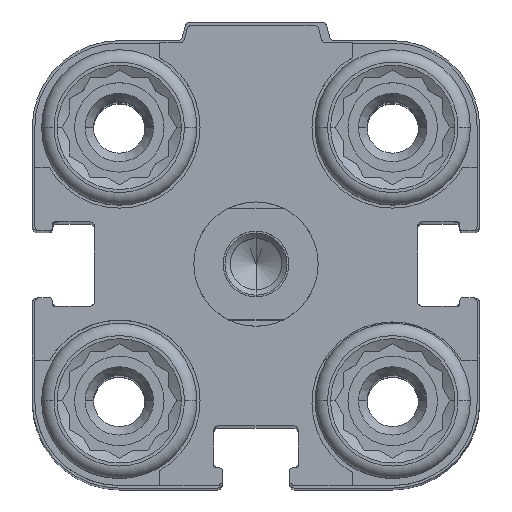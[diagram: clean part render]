
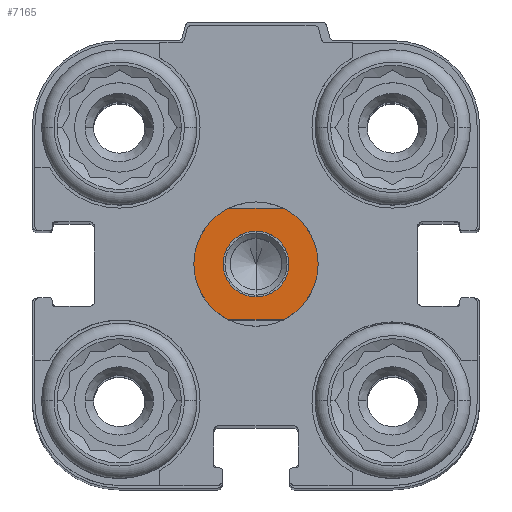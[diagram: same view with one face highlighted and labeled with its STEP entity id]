
A CAD part, top view. The second image highlights one B-rep face of the part: STEP entity #7165.
In plain terms, the highlighted planar face has unit normal (0, 0, 1).
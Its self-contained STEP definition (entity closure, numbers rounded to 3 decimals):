
#115 = ORIENTED_EDGE ( 'NONE', *, *, #16718, .F. ) ;
#522 = FACE_OUTER_BOUND ( 'NONE', #14630, .T. ) ;
#655 = VERTEX_POINT ( 'NONE', #5019 ) ;
#1000 = LINE ( 'NONE', #9761, #11705 ) ;
#1283 = CIRCLE ( 'NONE', #18040, 5. ) ;
#1880 = CARTESIAN_POINT ( 'NONE',  ( -2.179, -4.5, 4.5 ) ) ;
#2134 = FACE_BOUND ( 'NONE', #2379, .T. ) ;
#2248 = CIRCLE ( 'NONE', #14135, 2.65 ) ;
#2379 = EDGE_LOOP ( 'NONE', ( #17514, #16804 ) ) ;
#2571 = VECTOR ( 'NONE', #15939, 1000. ) ;
#2673 = DIRECTION ( 'NONE',  ( 0., 0., -1. ) ) ;
#2718 = VERTEX_POINT ( 'NONE', #5071 ) ;
#2892 = AXIS2_PLACEMENT_3D ( 'NONE', #14521, #2673, #8488 ) ;
#3582 = ORIENTED_EDGE ( 'NONE', *, *, #9716, .F. ) ;
#3602 = ORIENTED_EDGE ( 'NONE', *, *, #17434, .F. ) ;
#3717 = DIRECTION ( 'NONE',  ( 0., 1., 0. ) ) ;
#3745 = AXIS2_PLACEMENT_3D ( 'NONE', #18851, #12858, #17239 ) ;
#3895 = DIRECTION ( 'NONE',  ( 0., 0., -1. ) ) ;
#3948 = VERTEX_POINT ( 'NONE', #13382 ) ;
#4021 = CARTESIAN_POINT ( 'NONE',  ( 0., 0., 4.5 ) ) ;
#4091 = DIRECTION ( 'NONE',  ( 0., 1., 0. ) ) ;
#4204 = DIRECTION ( 'NONE',  ( -1., 0., 0. ) ) ;
#4797 = CARTESIAN_POINT ( 'NONE',  ( 0., 0., 4.5 ) ) ;
#5019 = CARTESIAN_POINT ( 'NONE',  ( 5., 0., 4.5 ) ) ;
#5071 = CARTESIAN_POINT ( 'NONE',  ( -2.179, 4.5, 4.5 ) ) ;
#5616 = CIRCLE ( 'NONE', #8052, 2.65 ) ;
#5797 = VERTEX_POINT ( 'NONE', #16180 ) ;
#7106 = CIRCLE ( 'NONE', #16569, 5. ) ;
#7165 = ADVANCED_FACE ( 'NONE', ( #522, #2134 ), #9298, .F. ) ;
#7430 = DIRECTION ( 'NONE',  ( -1., 0., 0. ) ) ;
#7803 = CARTESIAN_POINT ( 'NONE',  ( -5., 0., 4.5 ) ) ;
#8039 = DIRECTION ( 'NONE',  ( 0., 0., -1. ) ) ;
#8052 = AXIS2_PLACEMENT_3D ( 'NONE', #14240, #8485, #4091 ) ;
#8485 = DIRECTION ( 'NONE',  ( 0., 0., -1. ) ) ;
#8488 = DIRECTION ( 'NONE',  ( -1., 0., 0. ) ) ;
#9298 = PLANE ( 'NONE',  #14851 ) ;
#9336 = ORIENTED_EDGE ( 'NONE', *, *, #17163, .F. ) ;
#9346 = CARTESIAN_POINT ( 'NONE',  ( 2.179, 4.5, 4.5 ) ) ;
#9716 = EDGE_CURVE ( 'NONE', #12279, #12309, #1283, .T. ) ;
#9761 = CARTESIAN_POINT ( 'NONE',  ( 9., -4.5, 4.5 ) ) ;
#9780 = ORIENTED_EDGE ( 'NONE', *, *, #18597, .F. ) ;
#10211 = LINE ( 'NONE', #14519, #2571 ) ;
#10387 = CARTESIAN_POINT ( 'NONE',  ( 0., 0., 4.5 ) ) ;
#10748 = VERTEX_POINT ( 'NONE', #9346 ) ;
#10784 = CIRCLE ( 'NONE', #3745, 5. ) ;
#11238 = CARTESIAN_POINT ( 'NONE',  ( 0., 2.65, 4.5 ) ) ;
#11633 = EDGE_CURVE ( 'NONE', #2718, #10748, #10211, .T. ) ;
#11705 = VECTOR ( 'NONE', #15598, 1000. ) ;
#11711 = EDGE_CURVE ( 'NONE', #12120, #5797, #5616, .T. ) ;
#12120 = VERTEX_POINT ( 'NONE', #11238 ) ;
#12279 = VERTEX_POINT ( 'NONE', #1880 ) ;
#12309 = VERTEX_POINT ( 'NONE', #7803 ) ;
#12858 = DIRECTION ( 'NONE',  ( 0., 0., -1. ) ) ;
#13382 = CARTESIAN_POINT ( 'NONE',  ( 2.179, -4.5, 4.5 ) ) ;
#13896 = DIRECTION ( 'NONE',  ( 0., 1., 0. ) ) ;
#14135 = AXIS2_PLACEMENT_3D ( 'NONE', #14322, #3895, #3717 ) ;
#14180 = ORIENTED_EDGE ( 'NONE', *, *, #11633, .F. ) ;
#14240 = CARTESIAN_POINT ( 'NONE',  ( 0., 0., 4.5 ) ) ;
#14322 = CARTESIAN_POINT ( 'NONE',  ( 0., 0., 4.5 ) ) ;
#14519 = CARTESIAN_POINT ( 'NONE',  ( -9., 4.5, 4.5 ) ) ;
#14521 = CARTESIAN_POINT ( 'NONE',  ( 0., 0., 4.5 ) ) ;
#14630 = EDGE_LOOP ( 'NONE', ( #14180, #9336, #3582, #3602, #115, #9780 ) ) ;
#14851 = AXIS2_PLACEMENT_3D ( 'NONE', #4797, #8039, #13896 ) ;
#15598 = DIRECTION ( 'NONE',  ( -1., 0., 0. ) ) ;
#15939 = DIRECTION ( 'NONE',  ( 1., 0., 0. ) ) ;
#16180 = CARTESIAN_POINT ( 'NONE',  ( 0., -2.65, 4.5 ) ) ;
#16569 = AXIS2_PLACEMENT_3D ( 'NONE', #10387, #17442, #7430 ) ;
#16615 = CIRCLE ( 'NONE', #2892, 5. ) ;
#16656 = EDGE_CURVE ( 'NONE', #5797, #12120, #2248, .T. ) ;
#16718 = EDGE_CURVE ( 'NONE', #655, #3948, #7106, .T. ) ;
#16804 = ORIENTED_EDGE ( 'NONE', *, *, #16656, .T. ) ;
#17163 = EDGE_CURVE ( 'NONE', #12309, #2718, #10784, .T. ) ;
#17239 = DIRECTION ( 'NONE',  ( -1., 0., 0. ) ) ;
#17287 = DIRECTION ( 'NONE',  ( 0., 0., -1. ) ) ;
#17434 = EDGE_CURVE ( 'NONE', #3948, #12279, #1000, .T. ) ;
#17442 = DIRECTION ( 'NONE',  ( 0., 0., -1. ) ) ;
#17514 = ORIENTED_EDGE ( 'NONE', *, *, #11711, .T. ) ;
#18040 = AXIS2_PLACEMENT_3D ( 'NONE', #4021, #17287, #4204 ) ;
#18597 = EDGE_CURVE ( 'NONE', #10748, #655, #16615, .T. ) ;
#18851 = CARTESIAN_POINT ( 'NONE',  ( 0., 0., 4.5 ) ) ;
